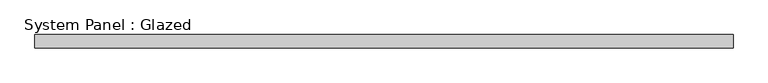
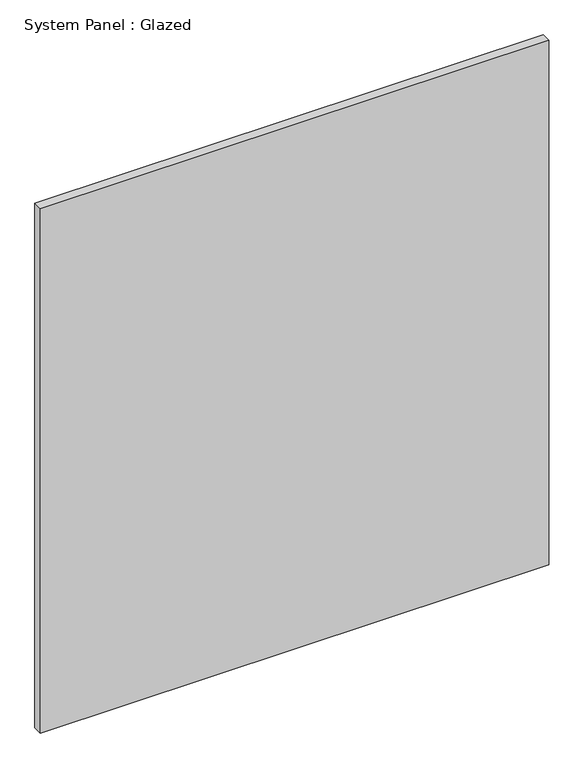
"""IFC4 building model written with IfcOpenShell, lengths in millimetres: plate geometry, System Panel : Glazed."""

from ifc_helpers import new_model, si_unit, origin, origin_with_axes, place, context, project, spatial, polyline, outline, extrude, source, transform, mapped, element, save


def system_panel_glazed_dd9e86fc(model_context):
    return source(origin(), model_context, "Body", "SweptSolid", [
        extrude(outline(polyline([(669.9250001, -44.45), (-669.9250001, -44.45), (-669.9250001, -19.05), (669.9250001, -19.05), (669.9250001, -44.45)])), origin_with_axes(), (0.0, 0.0, 1.0), 1460.5),
    ])


if __name__ == "__main__":
    model = new_model("IFC4")
    model_context = context("Model", 3, world=origin())
    ifc_project = project(units=[si_unit("LENGTHUNIT", "METRE", prefix="MILLI")], contexts=[model_context])
    site = spatial("IfcSite", under=ifc_project)
    building = spatial("IfcBuilding", under=site)
    placement = place(None, origin())
    system_panel_glazed_shape = system_panel_glazed_dd9e86fc(model_context)
    element("IfcPlate", 1, ObjectType="System Panel : Glazed", at=placement, inside=building, context=model_context, shape_type="MappedRepresentation", body=[
        mapped(system_panel_glazed_shape, transform((0.0, 0.0, 0.0), x_axis=(1.0, 0.0, 0.0), y_axis=(0.0, 1.0, 0.0), z_axis=(0.0, 0.0, 1.0))),
    ])
    save(model, "model.ifc")
